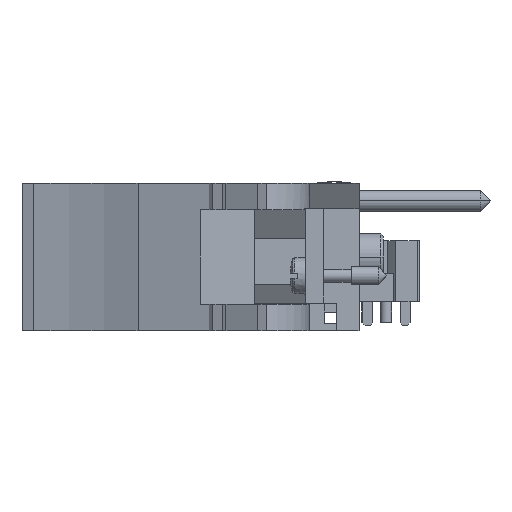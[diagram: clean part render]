
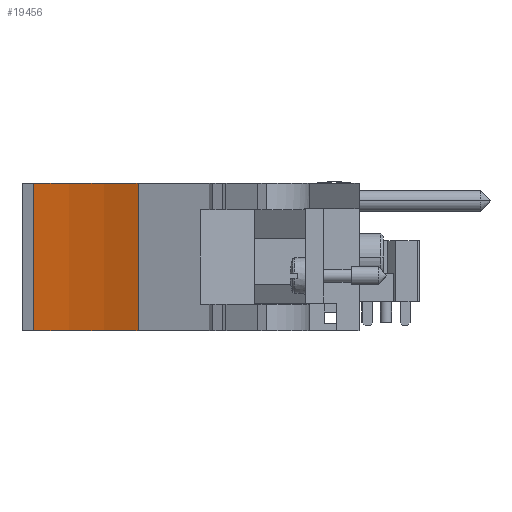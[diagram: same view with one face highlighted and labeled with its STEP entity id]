
A CAD part, front view. The second image highlights one B-rep face of the part: STEP entity #19456.
In plain terms, the highlighted cylindrical face has radius 51.46 mm (diameter 102.919 mm), a partial arc.
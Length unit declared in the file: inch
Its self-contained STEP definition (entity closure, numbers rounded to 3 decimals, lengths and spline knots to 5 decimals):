
#10895=DIRECTION('',(0.,0.,1.));
#10896=VECTOR('',#10895,0.788);
#10897=CARTESIAN_POINT('',(-1.23592,-0.40873,-0.093));
#10898=LINE('',#10897,#10896);
#10956=CARTESIAN_POINT('',(-2.11666,-2.23324,-0.093));
#10957=DIRECTION('',(0.,0.,1.));
#10958=DIRECTION('',(0.435,0.901,0.));
#10959=AXIS2_PLACEMENT_3D('',#10956,#10957,#10958);
#11270=CARTESIAN_POINT('',(-2.11666,-2.23324,0.695));
#11271=DIRECTION('',(0.,0.,1.));
#11272=DIRECTION('',(0.435,0.901,0.));
#11273=AXIS2_PLACEMENT_3D('',#11270,#11271,#11272);
#11514=DIRECTION('',(0.,0.,1.));
#11515=VECTOR('',#11514,0.788);
#11516=CARTESIAN_POINT('',(-1.79394,-0.23314,-0.093));
#11517=LINE('',#11516,#11515);
#17305=CARTESIAN_POINT('',(-1.23592,-0.40873,-0.093));
#17306=CARTESIAN_POINT('',(-1.79394,-0.23314,-0.093));
#17307=VERTEX_POINT('',#17305);
#17308=VERTEX_POINT('',#17306);
#17309=CARTESIAN_POINT('',(-1.23592,-0.40873,0.695));
#17310=CARTESIAN_POINT('',(-1.79394,-0.23314,0.695));
#17311=VERTEX_POINT('',#17309);
#17312=VERTEX_POINT('',#17310);
#19442=CARTESIAN_POINT('',(-2.11666,-2.23324,0.695));
#19443=DIRECTION('',(0.,0.,1.));
#19444=DIRECTION('',(0.,1.,0.));
#19445=AXIS2_PLACEMENT_3D('',#19442,#19443,#19444);
#19446=CYLINDRICAL_SURFACE('',#19445,2.02597);
#19448=ORIENTED_EDGE('',*,*,#19447,.T.);
#19450=ORIENTED_EDGE('',*,*,#19449,.T.);
#19452=ORIENTED_EDGE('',*,*,#19451,.F.);
#19453=ORIENTED_EDGE('',*,*,#19425,.F.);
#19454=EDGE_LOOP('',(#19448,#19450,#19452,#19453));
#19455=FACE_OUTER_BOUND('',#19454,.F.);
#19456=ADVANCED_FACE('',(#19455),#19446,.F.);
#10960=CIRCLE('',#10959,2.02597);
#11274=CIRCLE('',#11273,2.02597);
#19425=EDGE_CURVE('',#17307,#17311,#10898,.T.);
#19447=EDGE_CURVE('',#17307,#17308,#10960,.T.);
#19449=EDGE_CURVE('',#17308,#17312,#11517,.T.);
#19451=EDGE_CURVE('',#17311,#17312,#11274,.T.);
